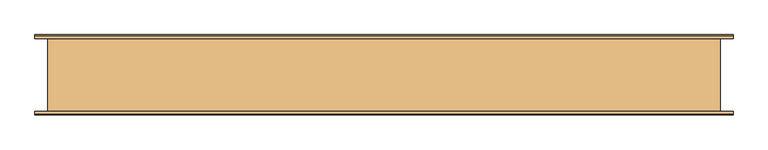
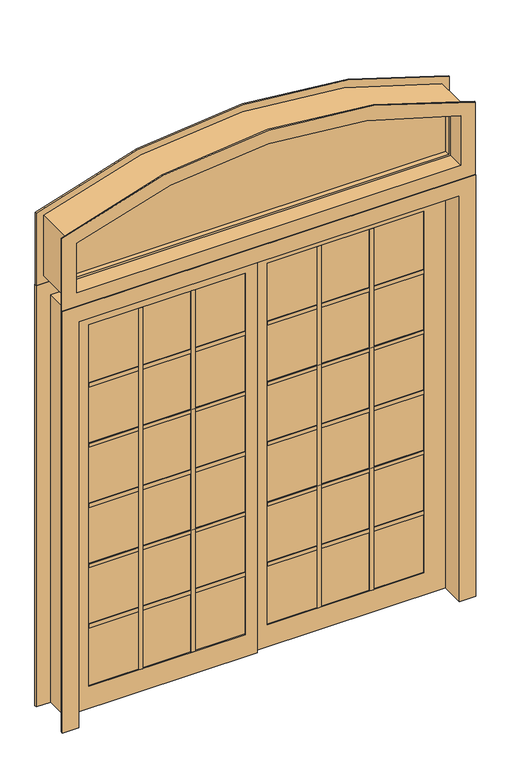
"""IFC4 building model written with IfcOpenShell, lengths in millimetres: door geometry, Pollard_Windows_Vistador Patio Doors_ATS_Extended Segmental : AVDR7180-ESW1806_GC."""

import ifcopenshell
import ifcopenshell.guid

model = None  # the IFC model being written
_history = None  # IfcOwnerHistory: only IFC2X3 demands one
_inside = {}  # id of a spatial element -> (the spatial element, [elements in it])
_under = {}  # id of a project, library or spatial element -> (it, [spatial elements below it])
_declared = {}  # id of a project -> (the project, [libraries it declares])
_typed = {}  # id of a type object -> (the type object, [elements of that type])
_made_of = {}  # id of a material, layer set ... -> (it, [elements and type objects made of it])


def new_model(schema):
    """Start an empty IFC model of exactly this schema.

    Asked for "IFC4X3", IfcOpenShell would pick the latest addendum, in which some entities
    have other attributes; the version numbers below select the first issue.
    IFC2X3 requires an IfcOwnerHistory on every rooted entity: one is made here for all.
    """
    global model, _history
    if schema == "IFC4X3":
        model = ifcopenshell.file(schema_version=(4, 3, 0, 0))
    else:
        model = ifcopenshell.file(schema=schema)
    _inside.clear()
    _under.clear()
    _declared.clear()
    _typed.clear()
    _made_of.clear()
    _history = None
    if model.schema == "IFC2X3":
        org = make("IfcOrganization", Name="unknown")
        user = make(
            "IfcPersonAndOrganization",
            ThePerson=make("IfcPerson", FamilyName="unknown"),
            TheOrganization=org,
        )
        app = make(
            "IfcApplication",
            ApplicationDeveloper=org,
            Version="unknown",
            ApplicationFullName="unknown",
            ApplicationIdentifier="unknown",
        )
        _history = make(
            "IfcOwnerHistory",
            OwningUser=user,
            OwningApplication=app,
            ChangeAction="ADDED",
            CreationDate=0,
        )
    return model


def make(cls, **values):
    """One entity of the class cls with the attributes given. An attribute that is None is left unset."""
    return model.create_entity(
        cls, **{name: value for name, value in values.items() if value is not None}
    )


def rooted(cls, **values):
    """An entity with a GlobalId (a new one), such as an element, a storey or a relation."""
    return make(cls, GlobalId=ifcopenshell.guid.new(), OwnerHistory=_history, **values)


def si_unit(unit_type, name, prefix=None):
    """IfcSIUnit, for example si_unit("LENGTHUNIT", "METRE", prefix="MILLI")."""
    return make("IfcSIUnit", UnitType=unit_type, Prefix=prefix, Name=name)


def assignment(units):
    """IfcUnitAssignment: the units of a project."""
    return None if units is None else make("IfcUnitAssignment", Units=units)


def point(xyz):
    """IfcCartesianPoint."""
    return None if xyz is None else make("IfcCartesianPoint", Coordinates=xyz)


def direction(xyz):
    """IfcDirection."""
    return None if xyz is None else make("IfcDirection", DirectionRatios=xyz)


def frame(location, z_axis=None, x_axis=None):
    """IfcAxis2Placement3D, a coordinate frame: its origin and axes. An axis left out is left unset."""
    return make(
        "IfcAxis2Placement3D",
        Location=point(location),
        Axis=direction(z_axis),
        RefDirection=direction(x_axis),
    )


def frame_2d(location, x_axis=None):
    """IfcAxis2Placement2D, a coordinate frame in the plane: its origin and x axis."""
    return make(
        "IfcAxis2Placement2D", Location=point(location), RefDirection=direction(x_axis)
    )


def origin():
    """The frame at (0, 0, 0) with its axes left unset."""
    return frame((0.0, 0.0, 0.0))


def place(relative_to, where):
    """IfcLocalPlacement: puts the frame where relative to a parent placement (None: the world)."""
    return make(
        "IfcLocalPlacement", PlacementRelTo=relative_to, RelativePlacement=where
    )


def context(
    kind, dimensions, precision=None, world=None, true_north=None, identifier=None
):
    """IfcGeometricRepresentationContext, for example the 3D "Model" context."""
    return make(
        "IfcGeometricRepresentationContext",
        ContextIdentifier=identifier,
        ContextType=kind,
        CoordinateSpaceDimension=dimensions,
        Precision=precision,
        WorldCoordinateSystem=world,
        TrueNorth=true_north,
    )


def project(units=None, contexts=None):
    """IfcProject with its units and contexts."""
    return rooted(
        "IfcProject",
        Name="project",
        RepresentationContexts=contexts,
        UnitsInContext=assignment(units),
    )


def spatial(cls, under=None, at=None, **own):
    """A site, building, storey or space (cls), placed at a placement, below another one or the project."""
    s = rooted(cls, ObjectPlacement=at, **own)
    if under is not None:
        _under.setdefault(under.id(), (under, []))[1].append(s)
    return s


def polyline(points):
    """IfcPolyline through the points."""
    return make("IfcPolyline", Points=[point(p) for p in points])


def circle_curve(where, radius):
    """IfcCircle in the frame where."""
    return make("IfcCircle", Position=where, Radius=radius)


def trimmed(basis, trim1, trim2, sense, master):
    """IfcTrimmedCurve: the piece of a basis curve between two trims."""
    return make(
        "IfcTrimmedCurve",
        BasisCurve=basis,
        Trim1=trim1,
        Trim2=trim2,
        SenseAgreement=sense,
        MasterRepresentation=master,
    )


def segment(curve, same_sense, transition):
    """IfcCompositeCurveSegment."""
    return make(
        "IfcCompositeCurveSegment",
        Transition=transition,
        SameSense=same_sense,
        ParentCurve=curve,
    )


def composite_curve(segments, self_intersect=None):
    """IfcCompositeCurve: segments joined end to end."""
    return make("IfcCompositeCurve", Segments=segments, SelfIntersect=self_intersect)


def outline(outer, holes=None, kind="AREA"):
    """IfcArbitraryClosedProfileDef: a profile drawn as a closed curve; with holes, ...WithVoids."""
    if holes is None:
        return make("IfcArbitraryClosedProfileDef", ProfileType=kind, OuterCurve=outer)
    return make(
        "IfcArbitraryProfileDefWithVoids",
        ProfileType=kind,
        OuterCurve=outer,
        InnerCurves=holes,
    )


def extrude(swept, where, along, depth):
    """IfcExtrudedAreaSolid: the profile swept, set in the frame where, extruded along a direction by depth."""
    return make(
        "IfcExtrudedAreaSolid",
        SweptArea=swept,
        Position=where,
        ExtrudedDirection=direction(along),
        Depth=depth,
    )


def faces_of(points, faces, orient=None, outer=None):
    """IfcFace entities. A face is a list of loops; a loop is a list of indices into points, from 0.

    orient and outer hold one flag for each loop. By default every Orientation is true, the
    first loop of a face is its IfcFaceOuterBound and the others are IfcFaceBound.
    """
    made = []
    for i, loops in enumerate(faces):
        bounds = []
        for j, loop in enumerate(loops):
            is_outer = j == 0 if outer is None else outer[i][j]
            bounds.append(
                make(
                    "IfcFaceOuterBound" if is_outer else "IfcFaceBound",
                    Bound=make("IfcPolyLoop", Polygon=[points[k] for k in loop]),
                    Orientation=True if orient is None else orient[i][j],
                )
            )
        made.append(make("IfcFace", Bounds=bounds))
    return made


def faceted_brep(points, faces, orient=None, outer=None, voids=None):
    """IfcFacetedBrep: a solid bounded by flat faces; with voids (closed shells), ...WithVoids."""
    shared = [point(p) for p in points]
    hull = make("IfcClosedShell", CfsFaces=faces_of(shared, faces, orient, outer))
    if voids is None:
        return make("IfcFacetedBrep", Outer=hull)
    return make(
        "IfcFacetedBrepWithVoids",
        Outer=hull,
        Voids=[
            make(cls, CfsFaces=faces_of(shared, fs, o, b)) for cls, fs, o, b in voids
        ],
    )


def shape(context_of_items, identifier, shape_type, items):
    """IfcShapeRepresentation: the items that make up one representation, for example the "Body"."""
    return make(
        "IfcShapeRepresentation",
        ContextOfItems=context_of_items,
        RepresentationIdentifier=identifier,
        RepresentationType=shape_type,
        Items=items,
    )


def source(mapping_origin, context_of_items, identifier, shape_type, items):
    """IfcRepresentationMap: a shape defined once, which mapped items show again and again."""
    return make(
        "IfcRepresentationMap",
        MappingOrigin=mapping_origin,
        MappedRepresentation=shape(context_of_items, identifier, shape_type, items),
    )


def transform(
    local_origin,
    x_axis=None,
    y_axis=None,
    z_axis=None,
    scale=None,
    scale2=None,
    scale3=None,
    uniform=True,
):
    """IfcCartesianTransformationOperator3D, or its non-uniform kind. x_axis, y_axis, z_axis: its Axis1, 2, 3."""
    if uniform:
        return make(
            "IfcCartesianTransformationOperator3D",
            Axis1=direction(x_axis),
            Axis2=direction(y_axis),
            LocalOrigin=point(local_origin),
            Scale=scale,
            Axis3=direction(z_axis),
        )
    return make(
        "IfcCartesianTransformationOperator3DnonUniform",
        Axis1=direction(x_axis),
        Axis2=direction(y_axis),
        LocalOrigin=point(local_origin),
        Scale=scale,
        Axis3=direction(z_axis),
        Scale2=scale2,
        Scale3=scale3,
    )


def mapped(mapping_source, mapping_target):
    """IfcMappedItem: shows the shape of a source again, moved by a transform."""
    return make(
        "IfcMappedItem", MappingSource=mapping_source, MappingTarget=mapping_target
    )


def made_of(thing, what):
    """Note that an element or type object is made of a material, layer set ...; save() writes the relation."""
    if what is not None:
        _made_of.setdefault(what.id(), (what, []))[1].append(thing)
    return thing


def element(
    cls,
    number,
    at=None,
    inside=None,
    cuts=None,
    type_object=None,
    material=None,
    context=None,
    identifier="Body",
    shape_type=None,
    held_by="IfcProductDefinitionShape",
    body=None,
    shapes=None,
    **own,
):
    """One element of the class cls, such as IfcWall. Its Tag is "e" and its number.

    at: its placement. inside: the storey or other place that contains it. cuts: it is an
    opening in that element (IfcRelVoidsElement). A single representation is given by context,
    identifier, shape_type and body (its items); several are given by shapes. held_by: the class
    of the entity that holds the representations. save() writes the other relations.
    """
    e = rooted(cls, Tag="e%d" % number, ObjectPlacement=at, **own)
    if body is not None:
        shapes = [shape(context, identifier, shape_type, body)]
    if shapes is not None:
        e.Representation = make(held_by, Representations=shapes)
    if inside is not None:
        _inside.setdefault(inside.id(), (inside, []))[1].append(e)
    if cuts is not None:
        rooted(
            "IfcRelVoidsElement", RelatingBuildingElement=cuts, RelatedOpeningElement=e
        )
    if type_object is not None:
        _typed.setdefault(type_object.id(), (type_object, []))[1].append(e)
    return made_of(e, material)


def aggregate(whole, parts):
    """IfcRelAggregates: a whole, such as a stair, and the parts it consists of."""
    return rooted("IfcRelAggregates", RelatingObject=whole, RelatedObjects=parts)


def save(model, path):
    """Write the relations noted so far, then the file.

    IfcRelAggregates (storeys below a building ...), IfcRelContainedInSpatialStructure (elements
    in a storey), IfcRelDefinesByType, IfcRelAssociatesMaterial and IfcRelDeclares: one each for
    every whole, place, type object, material and project.
    """
    for whole, parts in _under.values():
        aggregate(whole, parts)
    for where, things in _inside.values():
        rooted(
            "IfcRelContainedInSpatialStructure",
            RelatedElements=things,
            RelatingStructure=where,
        )
    for kind, things in _typed.values():
        rooted("IfcRelDefinesByType", RelatedObjects=things, RelatingType=kind)
    for what, things in _made_of.values():
        rooted("IfcRelAssociatesMaterial", RelatedObjects=things, RelatingMaterial=what)
    for by, libraries in _declared.values():
        rooted("IfcRelDeclares", RelatingContext=by, RelatedDefinitions=libraries)
    model.write(path)


def plane_surface(at):
    """IfcPlane: the flat surface through the origin of the frame at, square to its z axis."""
    return make("IfcPlane", Position=at)


def cylinder_surface(at, radius):
    """IfcCylindricalSurface: all points at the distance radius from the z axis of the frame at."""
    return make("IfcCylindricalSurface", Position=at, Radius=radius)


def revolved_surface(curve, axis_point, axis_direction):
    """IfcSurfaceOfRevolution: the curve turned about the line through axis_point along axis_direction."""
    return make(
        "IfcSurfaceOfRevolution",
        SweptCurve=make("IfcArbitraryOpenProfileDef", ProfileType="CURVE", Curve=curve),
        AxisPosition=make("IfcAxis1Placement", Location=point(axis_point), Axis=direction(axis_direction)),
    )


def advanced_brep(points, edges, surfaces, faces):
    """IfcAdvancedBrep: a solid bounded by faces that lie on surfaces and meet in shared edges.

    An edge is (start, end): straight between two places in points (the first is 0);
    or (start, end, curve); or (start, end, curve, False) where it runs against its curve.
    A face is (place in surfaces, loops), or (place, loops, False) where it looks against
    its surface's normal. A loop lists edges by number (the first is 1), with a minus sign
    where the edge is run from its end to its start. The first loop is the outer one.
    """
    corners = [point(p) for p in points]
    vertices = [make("IfcVertexPoint", VertexGeometry=c) for c in corners]
    made = []
    for start, end, *more in edges:
        made.append(
            make(
                "IfcEdgeCurve",
                EdgeStart=vertices[start],
                EdgeEnd=vertices[end],
                EdgeGeometry=more[0] if more else make("IfcPolyline", Points=[corners[start], corners[end]]),
                SameSense=more[1] if len(more) > 1 else True,
            )
        )
    hull = []
    for where, loops, *sense in faces:
        bounds = []
        for j, loop in enumerate(loops):
            ring = [make("IfcOrientedEdge", EdgeElement=made[abs(k) - 1], Orientation=k > 0) for k in loop]
            bounds.append(
                make(
                    "IfcFaceOuterBound" if j == 0 else "IfcFaceBound",
                    Bound=make("IfcEdgeLoop", EdgeList=ring),
                    Orientation=True,
                )
            )
        hull.append(make("IfcAdvancedFace", Bounds=bounds, FaceSurface=surfaces[where], SameSense=sense[0] if sense else True))
    return make("IfcAdvancedBrep", Outer=make("IfcClosedShell", CfsFaces=hull))


def door_c7962197(model_context):
    return source(origin(), model_context, "Body", "SolidModel", [
        extrude(outline(composite_curve([segment(trimmed(circle_curve(frame_2d((192.3310275, 0.0)), 2404.8403652), [point((2414.0558519, 920.4325))], [point((2414.0558519, -920.4325))], False, "CARTESIAN"), True, "CONTINUOUS"), segment(polyline([(2414.0558519, -920.4325), (2135.378, -920.4325), (2135.378, 920.4325), (2414.0558519, 920.4325)]), True, "CONTINUOUS")], self_intersect=False)), frame((0.0, -2.6145378, 0.0), z_axis=(0.0, 1.0, 0.0), x_axis=(0.0, 0.0, 1.0)), (0.0, 0.0, 1.0), 5.2290756),
        advanced_brep(
        [(920.4325, -25.4, 2135.378), (920.4325, 25.4, 2135.378), (920.4325, 25.4, 2414.0558519), (920.4325, -25.4, 2414.0558519), (890.4543258, -2.6145378, 2165.3561742), (890.4543258, -25.4, 2165.3561742), (890.4543258, -25.4, 2393.9353334), (890.4543258, -2.6145378, 2393.9353334), (900.1125, 2.6145378, 2155.698), (900.1125, -2.6145378, 2155.698), (900.1125, -2.6145378, 2400.4376507), (900.1125, 2.6145378, 2400.4376507), (890.4543258, 25.4, 2165.3561742), (890.4543258, 2.6145378, 2165.3561742), (890.4543258, 2.6145378, 2393.9353334), (890.4543258, 25.4, 2393.9353334), (-920.4325, -25.4, 2414.0558519), (-920.4325, 25.4, 2414.0558519), (-920.4325, -25.4, 2135.378), (-890.4543258, -25.4, 2393.9353334), (-890.4543258, -25.4, 2165.3561742), (-890.4543258, -2.6145378, 2393.9353334), (-900.1125, -2.6145378, 2400.4376507), (-900.1125, -2.6145378, 2155.698), (-890.4543258, -2.6145378, 2165.3561742), (-900.1125, 2.6145378, 2400.4376507), (-900.1125, 2.6145378, 2155.698), (-890.4543258, 2.6145378, 2393.9353334), (-890.4543258, 2.6145378, 2165.3561742), (-890.4543258, 25.4, 2393.9353334), (-920.4325, 25.4, 2135.378), (-890.4543258, 25.4, 2165.3561742)],
        [
            (0, 1),
            (1, 2),
            (2, 3),
            (3, 0),
            (4, 5),
            (5, 6),
            (6, 7),
            (7, 4),
            (8, 9),
            (9, 10),
            (10, 11),
            (11, 8),
            (12, 13),
            (13, 14),
            (14, 15),
            (15, 12),
            (16, 3, circle_curve(frame((0.0, -25.4, 192.3310275), z_axis=(0.0, 1.0, 0.0), x_axis=(0.38598424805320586, 0.0, 0.9225053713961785)), 2404.8403652)),
            (2, 17, circle_curve(frame((0.0, 25.4, 192.3310275), z_axis=(0.0, -1.0, 0.0), x_axis=(0.38598424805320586, 0.0, 0.9225053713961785)), 2404.8403652)),
            (17, 16),
            (16, 18),
            (18, 0),
            (19, 6, circle_curve(frame((0.0, -25.4, 192.3310275), z_axis=(0.0, 1.0, 0.0), x_axis=(0.38598424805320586, 0.0, 0.9225053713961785)), 2374.862191)),
            (5, 20),
            (20, 19),
            (21, 7, circle_curve(frame((0.0, -2.6145378, 192.3310275), z_axis=(0.0, 1.0, 0.0), x_axis=(0.38598424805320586, 0.0, 0.9225053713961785)), 2374.862191)),
            (19, 21),
            (22, 10, circle_curve(frame((0.0, -2.6145378, 192.3310275), z_axis=(0.0, 1.0, 0.0), x_axis=(0.38598424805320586, 0.0, 0.9225053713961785)), 2384.5203652)),
            (9, 23),
            (23, 22),
            (21, 24),
            (24, 4),
            (25, 11, circle_curve(frame((0.0, 2.6145378, 192.3310275), z_axis=(0.0, 1.0, 0.0), x_axis=(0.38598424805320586, 0.0, 0.9225053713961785)), 2384.5203652)),
            (22, 25),
            (25, 26),
            (26, 8),
            (27, 14, circle_curve(frame((0.0, 2.6145378, 192.3310275), z_axis=(0.0, 1.0, 0.0), x_axis=(0.38598424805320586, 0.0, 0.9225053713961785)), 2374.862191)),
            (13, 28),
            (28, 27),
            (29, 15, circle_curve(frame((0.0, 25.4, 192.3310275), z_axis=(0.0, 1.0, 0.0), x_axis=(0.38598424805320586, 0.0, 0.9225053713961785)), 2374.862191)),
            (27, 29),
            (1, 30),
            (30, 17),
            (29, 31),
            (31, 12),
            (30, 18),
            (20, 24),
            (23, 26),
            (28, 31),
        ],
        [
            plane_surface(frame((920.4325, 25.4, 2135.378), z_axis=(1.0, 0.0, 0.0), x_axis=(0.0, 0.0, 1.0))),
            plane_surface(frame((890.4543258, -25.4, 2165.3561742), z_axis=(-1.0, 0.0, 0.0), x_axis=(0.0, 0.0, 1.0))),
            plane_surface(frame((900.1125, -2.6145378, 2155.698), z_axis=(-1.0, 0.0, 0.0), x_axis=(0.0, 0.0, 1.0))),
            plane_surface(frame((890.4543258, 2.6145378, 2165.3561742), z_axis=(-1.0, 0.0, 0.0), x_axis=(0.0, 0.0, 1.0))),
            cylinder_surface(frame((0.0, 0.0, 192.3310275), z_axis=(0.0, -1.0, 0.0), x_axis=(0.38598424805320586, 0.0, 0.9225053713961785)), 2404.8403652),
            plane_surface(frame((0.0, -25.4, 192.3310275), z_axis=(0.0, -1.0, 0.0), x_axis=(0.38598424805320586, 0.0, 0.9225053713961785))),
            revolved_surface(polyline([(916.659397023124, -25.4, 2383.1541550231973), (916.659397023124, -2.6145378, 2383.1541550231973)]), (0.0, 0.0, 192.3310275), (0.0, -1.0, 0.0)),
            plane_surface(frame((0.0, -2.6145378, 192.3310275), z_axis=(0.0, 1.0, 0.0), x_axis=(0.38598424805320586, 0.0, 0.9225053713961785))),
            revolved_surface(polyline([(920.3873001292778, -2.6145378, 2392.0638726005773), (920.3873001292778, 2.6145378, 2392.0638726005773)]), (0.0, 0.0, 192.3310275), (0.0, -1.0, 0.0)),
            plane_surface(frame((0.0, 2.6145378, 192.3310275), z_axis=(0.0, -1.0, 0.0), x_axis=(0.38598424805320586, 0.0, 0.9225053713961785))),
            revolved_surface(polyline([(916.659397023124, 2.6145378, 2383.1541550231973), (916.659397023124, 25.4, 2383.1541550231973)]), (0.0, 0.0, 192.3310275), (0.0, -1.0, 0.0)),
            plane_surface(frame((0.0, 25.4, 192.3310275), z_axis=(0.0, 1.0, 0.0), x_axis=(0.38598424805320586, 0.0, 0.9225053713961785))),
            plane_surface(frame((-920.4325, 25.4, 2414.0558519), z_axis=(-1.0, 0.0, 0.0), x_axis=(0.0, 0.0, -1.0))),
            plane_surface(frame((-890.4543258, -25.4, 2393.9353334), z_axis=(1.0, 0.0, 0.0), x_axis=(0.0, 0.0, -1.0))),
            plane_surface(frame((-900.1125, -2.6145378, 2400.4376507), z_axis=(1.0, 0.0, 0.0), x_axis=(0.0, 0.0, -1.0))),
            plane_surface(frame((-890.4543258, 2.6145378, 2393.9353334), z_axis=(1.0, 0.0, 0.0), x_axis=(0.0, 0.0, -1.0))),
            plane_surface(frame((-920.4325, 25.4, 2135.378), z_axis=(0.0, 0.0, -1.0), x_axis=(1.0, 0.0, 0.0))),
            plane_surface(frame((-890.4543258, -25.4, 2165.3561742), z_axis=(0.0, 0.0, 1.0), x_axis=(1.0, 0.0, 0.0))),
            plane_surface(frame((-900.1125, -2.6145378, 2155.698), z_axis=(0.0, 0.0, 1.0), x_axis=(1.0, 0.0, 0.0))),
            plane_surface(frame((-890.4543258, 2.6145378, 2165.3561742), z_axis=(0.0, 0.0, 1.0), x_axis=(1.0, 0.0, 0.0))),
        ],
        [
            (0, [[1, 2, 3, 4]]),
            (1, [[5, 6, 7, 8]]),
            (2, [[9, 10, 11, 12]]),
            (3, [[13, 14, 15, 16]]),
            (4, [[17, -3, 18, 19]]),
            (5, [[-17, 20, 21, -4], [22, -6, 23, 24]]),
            (6, [[25, -7, -22, 26]]),
            (7, [[27, -10, 28, 29], [-25, 30, 31, -8]]),
            (8, [[32, -11, -27, 33]]),
            (9, [[-32, 34, 35, -12], [36, -14, 37, 38]]),
            (10, [[39, -15, -36, 40]]),
            (11, [[-18, -2, 41, 42], [-39, 43, 44, -16]]),
            (12, [[-19, -42, 45, -20]]),
            (13, [[-26, -24, 46, -30]]),
            (14, [[-33, -29, 47, -34]]),
            (15, [[-40, -38, 48, -43]]),
            (16, [[-45, -41, -1, -21]]),
            (17, [[-46, -23, -5, -31]]),
            (18, [[-47, -28, -9, -35]]),
            (19, [[-48, -37, -13, -44]]),
        ],
    ),
        advanced_brep(
        [(-968.3115, -107.95, 2445.8183524), (-968.3115, -101.6, 2445.8183524), (-968.3115, -101.6, 2087.499), (-968.3115, -107.95, 2087.499), (-900.1125, -25.4, 2400.4376507), (-900.1125, -101.6, 2400.4376507), (-900.1125, -107.95, 2400.4376507), (-900.1125, -107.95, 2155.698), (-900.1125, -25.4, 2155.698), (-920.4325, 25.4, 2414.0558519), (-920.4325, -25.4, 2414.0558519), (-920.4325, -25.4, 2135.378), (-920.4325, 25.4, 2135.378), (-900.1125, 107.95, 2400.4376507), (-900.1125, 25.4, 2400.4376507), (-900.1125, 25.4, 2155.698), (-900.1125, 107.95, 2155.698), (-968.3115, 101.6, 2445.8183524), (-968.3115, 107.95, 2445.8183524), (-968.3115, 107.95, 2087.499), (-968.3115, 101.6, 2087.499), (-933.1325, -101.6, 2422.525), (-933.1325, 101.6, 2422.525), (-933.1325, 101.6, 2122.678), (-933.1325, -101.6, 2122.678), (968.3115, -101.6, 2087.499), (968.3115, -107.95, 2087.499), (900.1125, -107.95, 2155.698), (900.1125, -25.4, 2155.698), (920.4325, -25.4, 2135.378), (920.4325, 25.4, 2135.378), (900.1125, 25.4, 2155.698), (900.1125, 107.95, 2155.698), (968.3115, 107.95, 2087.499), (968.3115, 101.6, 2087.499), (933.1325, 101.6, 2122.678), (933.1325, -101.6, 2122.678), (968.3115, -101.6, 2445.8183524), (968.3115, -107.95, 2445.8183524), (900.1125, -107.95, 2400.4376507), (900.1125, -101.6, 2400.4376507), (900.1125, -25.4, 2400.4376507), (920.4325, -25.4, 2414.0558519), (920.4325, 25.4, 2414.0558519), (900.1125, 25.4, 2400.4376507), (900.1125, 107.95, 2400.4376507), (968.3115, 107.95, 2445.8183524), (968.3115, 101.6, 2445.8183524), (933.1325, 101.6, 2422.525), (933.1325, -101.6, 2422.525)],
        [
            (0, 1),
            (1, 2),
            (2, 3),
            (3, 0),
            (4, 5),
            (5, 6),
            (6, 7),
            (7, 8),
            (8, 4),
            (9, 10),
            (10, 11),
            (11, 12),
            (12, 9),
            (13, 14),
            (14, 15),
            (15, 16),
            (16, 13),
            (17, 18),
            (18, 19),
            (19, 20),
            (20, 17),
            (21, 22),
            (22, 23),
            (23, 24),
            (24, 21),
            (2, 25),
            (25, 26),
            (26, 3),
            (7, 27),
            (27, 28),
            (28, 8),
            (11, 29),
            (29, 30),
            (30, 12),
            (15, 31),
            (31, 32),
            (32, 16),
            (19, 33),
            (33, 34),
            (34, 20),
            (23, 35),
            (35, 36),
            (36, 24),
            (25, 37),
            (37, 38),
            (38, 26),
            (27, 39),
            (39, 40),
            (40, 41),
            (41, 28),
            (29, 42),
            (42, 43),
            (43, 30),
            (31, 44),
            (44, 45),
            (45, 32),
            (33, 46),
            (46, 47),
            (47, 34),
            (35, 48),
            (48, 49),
            (49, 36),
            (1, 37, circle_curve(frame((0.0, -101.6, 192.3310275), z_axis=(0.0, 1.0, 0.0), x_axis=(0.3859842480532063, 0.0, 0.9225053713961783)), 2452.7193652)),
            (49, 21, circle_curve(frame((0.0, -101.6, 192.3310275), z_axis=(0.0, -1.0, 0.0), x_axis=(0.3859842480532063, 0.0, 0.9225053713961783)), 2417.5403652)),
            (0, 38, circle_curve(frame((0.0, -107.95, 192.3310275), z_axis=(0.0, 1.0, 0.0), x_axis=(0.3859842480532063, 0.0, 0.9225053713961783)), 2452.7193652)),
            (6, 39, circle_curve(frame((0.0, -107.95, 192.3310275), z_axis=(0.0, 1.0, 0.0), x_axis=(0.3859842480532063, 0.0, 0.9225053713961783)), 2384.5203652)),
            (5, 40, circle_curve(frame((0.0, -101.6, 192.3310275), z_axis=(0.0, 1.0, 0.0), x_axis=(0.3859842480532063, 0.0, 0.9225053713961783)), 2384.5203652)),
            (4, 41, circle_curve(frame((0.0, -25.4, 192.3310275), z_axis=(0.0, 1.0, 0.0), x_axis=(0.3859842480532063, 0.0, 0.9225053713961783)), 2384.5203652)),
            (10, 42, circle_curve(frame((0.0, -25.4, 192.3310275), z_axis=(0.0, 1.0, 0.0), x_axis=(0.3859842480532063, 0.0, 0.9225053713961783)), 2404.8403652)),
            (9, 43, circle_curve(frame((0.0, 25.4, 192.3310275), z_axis=(0.0, 1.0, 0.0), x_axis=(0.3859842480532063, 0.0, 0.9225053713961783)), 2404.8403652)),
            (14, 44, circle_curve(frame((0.0, 25.4, 192.3310275), z_axis=(0.0, 1.0, 0.0), x_axis=(0.3859842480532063, 0.0, 0.9225053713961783)), 2384.5203652)),
            (13, 45, circle_curve(frame((0.0, 107.95, 192.3310275), z_axis=(0.0, 1.0, 0.0), x_axis=(0.3859842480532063, 0.0, 0.9225053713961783)), 2384.5203652)),
            (18, 46, circle_curve(frame((0.0, 107.95, 192.3310275), z_axis=(0.0, 1.0, 0.0), x_axis=(0.3859842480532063, 0.0, 0.9225053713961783)), 2452.7193652)),
            (17, 47, circle_curve(frame((0.0, 101.6, 192.3310275), z_axis=(0.0, 1.0, 0.0), x_axis=(0.3859842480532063, 0.0, 0.9225053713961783)), 2452.7193652)),
            (22, 48, circle_curve(frame((0.0, 101.6, 192.3310275), z_axis=(0.0, 1.0, 0.0), x_axis=(0.3859842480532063, 0.0, 0.9225053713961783)), 2417.5403652)),
        ],
        [
            plane_surface(frame((-968.3115, -101.6, 2445.8183524), z_axis=(-1.0, 0.0, 0.0), x_axis=(0.0, 0.0, -1.0))),
            plane_surface(frame((-900.1125, -101.6, 2400.4376507), z_axis=(1.0, 0.0, 0.0), x_axis=(0.0, 0.0, -1.0))),
            plane_surface(frame((-920.4325, -25.4, 2414.0558519), z_axis=(1.0, 0.0, 0.0), x_axis=(0.0, 0.0, -1.0))),
            plane_surface(frame((-900.1125, 25.4, 2400.4376507), z_axis=(1.0, 0.0, 0.0), x_axis=(0.0, 0.0, -1.0))),
            plane_surface(frame((-968.3115, 107.95, 2445.8183524), z_axis=(-1.0, 0.0, 0.0), x_axis=(0.0, 0.0, -1.0))),
            plane_surface(frame((-933.1325, 101.6, 2422.525), z_axis=(-1.0, 0.0, 0.0), x_axis=(0.0, 0.0, -1.0))),
            plane_surface(frame((-968.3115, -101.6, 2087.499), z_axis=(0.0, 0.0, -1.0), x_axis=(1.0, 0.0, 0.0))),
            plane_surface(frame((-900.1125, -101.6, 2155.698), z_axis=(0.0, 0.0, 1.0), x_axis=(1.0, 0.0, 0.0))),
            plane_surface(frame((-920.4325, -25.4, 2135.378), z_axis=(0.0, 0.0, 1.0), x_axis=(1.0, 0.0, 0.0))),
            plane_surface(frame((-900.1125, 25.4, 2155.698), z_axis=(0.0, 0.0, 1.0), x_axis=(1.0, 0.0, 0.0))),
            plane_surface(frame((-968.3115, 107.95, 2087.499), z_axis=(0.0, 0.0, -1.0), x_axis=(1.0, 0.0, 0.0))),
            plane_surface(frame((-933.1325, 101.6, 2122.678), z_axis=(0.0, 0.0, -1.0), x_axis=(1.0, 0.0, 0.0))),
            plane_surface(frame((968.3115, -101.6, 2087.499), z_axis=(1.0, 0.0, 0.0), x_axis=(0.0, 0.0, 1.0))),
            plane_surface(frame((900.1125, -101.6, 2155.698), z_axis=(-1.0, 0.0, 0.0), x_axis=(0.0, 0.0, 1.0))),
            plane_surface(frame((920.4325, -25.4, 2135.378), z_axis=(-1.0, 0.0, 0.0), x_axis=(0.0, 0.0, 1.0))),
            plane_surface(frame((900.1125, 25.4, 2155.698), z_axis=(-1.0, 0.0, 0.0), x_axis=(0.0, 0.0, 1.0))),
            plane_surface(frame((968.3115, 107.95, 2087.499), z_axis=(1.0, 0.0, 0.0), x_axis=(0.0, 0.0, 1.0))),
            plane_surface(frame((933.1325, 101.6, 2122.678), z_axis=(1.0, 0.0, 0.0), x_axis=(0.0, 0.0, 1.0))),
            plane_surface(frame((0.0, -101.6, 192.3310275), z_axis=(0.0, 1.0, 0.0), x_axis=(0.3859842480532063, 0.0, 0.9225053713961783))),
            cylinder_surface(frame((0.0, 101.6, 192.3310275), z_axis=(0.0, -1.0, 0.0), x_axis=(0.3859842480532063, 0.0, 0.9225053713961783)), 2452.7193652),
            plane_surface(frame((0.0, -107.95, 192.3310275), z_axis=(0.0, -1.0, 0.0), x_axis=(0.3859842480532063, 0.0, 0.9225053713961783))),
            revolved_surface(polyline([(920.3873001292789, -107.95000000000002, 2392.0638726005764), (920.3873001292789, -101.6, 2392.0638726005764)]), (0.0, 101.6, 192.3310275), (0.0, -1.0, 0.0)),
            revolved_surface(polyline([(920.3873001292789, -101.6, 2392.0638726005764), (920.3873001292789, -25.400000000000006, 2392.0638726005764)]), (0.0, 101.6, 192.3310275), (0.0, -1.0, 0.0)),
            plane_surface(frame((0.0, -25.4, 192.3310275), z_axis=(0.0, 1.0, 0.0), x_axis=(0.3859842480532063, 0.0, 0.9225053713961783))),
            revolved_surface(polyline([(928.2305000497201, -25.400000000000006, 2410.809181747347), (928.2305000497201, 25.400000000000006, 2410.809181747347)]), (0.0, 101.6, 192.3310275), (0.0, -1.0, 0.0)),
            plane_surface(frame((0.0, 25.4, 192.3310275), z_axis=(0.0, -1.0, 0.0), x_axis=(0.3859842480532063, 0.0, 0.9225053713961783))),
            revolved_surface(polyline([(920.3873001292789, 25.400000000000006, 2392.0638726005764), (920.3873001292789, 107.95, 2392.0638726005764)]), (0.0, 101.6, 192.3310275), (0.0, -1.0, 0.0)),
            plane_surface(frame((0.0, 107.95, 192.3310275), z_axis=(0.0, 1.0, 0.0), x_axis=(0.3859842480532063, 0.0, 0.9225053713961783))),
            plane_surface(frame((0.0, 101.6, 192.3310275), z_axis=(0.0, -1.0, 0.0), x_axis=(0.3859842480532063, 0.0, 0.9225053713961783))),
            cylinder_surface(frame((0.0, 101.6, 192.3310275), z_axis=(0.0, -1.0, 0.0), x_axis=(0.3859842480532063, 0.0, 0.9225053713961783)), 2417.5403652),
        ],
        [
            (0, [[1, 2, 3, 4]]),
            (1, [[5, 6, 7, 8, 9]]),
            (2, [[10, 11, 12, 13]]),
            (3, [[14, 15, 16, 17]]),
            (4, [[18, 19, 20, 21]]),
            (5, [[22, 23, 24, 25]]),
            (6, [[-3, 26, 27, 28]]),
            (7, [[-8, 29, 30, 31]]),
            (8, [[-12, 32, 33, 34]]),
            (9, [[-16, 35, 36, 37]]),
            (10, [[-20, 38, 39, 40]]),
            (11, [[-24, 41, 42, 43]]),
            (12, [[-27, 44, 45, 46]]),
            (13, [[-30, 47, 48, 49, 50]]),
            (14, [[-33, 51, 52, 53]]),
            (15, [[-36, 54, 55, 56]]),
            (16, [[-39, 57, 58, 59]]),
            (17, [[-42, 60, 61, 62]]),
            (18, [[63, -44, -26, -2], [-43, -62, 64, -25]]),
            (19, [[65, -45, -63, -1]]),
            (20, [[-28, -46, -65, -4], [66, -47, -29, -7]]),
            (21, [[67, -48, -66, -6]]),
            (22, [[68, -49, -67, -5]]),
            (23, [[69, -51, -32, -11], [-31, -50, -68, -9]]),
            (24, [[70, -52, -69, -10]]),
            (25, [[-34, -53, -70, -13], [71, -54, -35, -15]]),
            (26, [[72, -55, -71, -14]]),
            (27, [[73, -57, -38, -19], [-37, -56, -72, -17]]),
            (19, [[74, -58, -73, -18]]),
            (28, [[-40, -59, -74, -21], [75, -60, -41, -23]]),
            (29, [[-64, -61, -75, -22]]),
        ],
    ),
        extrude(outline(polyline([(-54.991, -10.0399998), (-790.1305, -10.0399998), (-790.1305, -4.9599998), (-54.991, -4.9599998), (-54.991, -10.0399998)])), frame((0.0, 0.0, 109.982), z_axis=(0.0, 0.0, 1.0), x_axis=(1.0, 0.0, 0.0)), (0.0, 0.0, 1.0), 1790.586),
        extrude(outline(polyline([(554.084, 14.9999996), (554.084, 9.9999998), (549.084, 9.9999998), (549.084, 4.9999998), (554.084, 4.9999998), (554.084, 0.0), (536.084, 0.0), (536.084, 4.9999998), (541.084, 4.9999998), (541.084, 9.9999998), (536.084, 9.9999998), (536.084, 14.9999996), (554.084, 14.9999996)])), frame((0.0, 0.0, 109.982), z_axis=(0.0, 0.0, 1.0), x_axis=(1.0, 0.0, 0.0)), (0.0, 0.0, 1.0), 1790.586),
        extrude(outline(polyline([(309.0375, 14.9999996), (309.0375, 9.9999998), (304.0375, 9.9999998), (304.0375, 4.9999998), (309.0375, 4.9999998), (309.0375, 0.0), (291.0375, 0.0), (291.0375, 4.9999998), (296.0375, 4.9999998), (296.0375, 9.9999998), (291.0375, 9.9999998), (291.0375, 14.9999996), (309.0375, 14.9999996)])), frame((0.0, 0.0, 109.982), z_axis=(0.0, 0.0, 1.0), x_axis=(1.0, 0.0, 0.0)), (0.0, 0.0, 1.0), 1790.586),
        extrude(outline(polyline([(-291.0375, 0.0), (-291.0375, -4.9999998), (-296.0375, -4.9999998), (-296.0375, -9.9999998), (-291.0375, -9.9999998), (-291.0375, -14.9999996), (-309.0375, -14.9999996), (-309.0375, -9.9999998), (-304.0375, -9.9999998), (-304.0375, -4.9999998), (-309.0375, -4.9999998), (-309.0375, 0.0), (-291.0375, 0.0)])), frame((0.0, 0.0, 109.982), z_axis=(0.0, 0.0, 1.0), x_axis=(1.0, 0.0, 0.0)), (0.0, 0.0, 1.0), 1790.586),
        extrude(outline(polyline([(-536.084, 0.0), (-536.084, -4.9999998), (-541.084, -4.9999998), (-541.084, -9.9999998), (-536.084, -9.9999998), (-536.084, -14.9999996), (-554.084, -14.9999996), (-554.084, -9.9999998), (-549.084, -9.9999998), (-549.084, -4.9999998), (-554.084, -4.9999998), (-554.084, 0.0), (-536.084, 0.0)])), frame((0.0, 0.0, 109.982), z_axis=(0.0, 0.0, 1.0), x_axis=(1.0, 0.0, 0.0)), (0.0, 0.0, 1.0), 1790.586),
        extrude(outline(polyline([(54.991, 10.0399998), (790.1305, 10.0399998), (790.1305, 4.9599998), (54.991, 4.9599998), (54.991, 10.0399998)])), frame((0.0, 0.0, 109.982), z_axis=(0.0, 0.0, 1.0), x_axis=(1.0, 0.0, 0.0)), (0.0, 0.0, 1.0), 1790.586),
        extrude(outline(polyline([(2010.55, 891.3625), (2010.55, 0.0), (0.0, 0.0), (0.0, 891.3625), (2010.55, 891.3625)]), holes=[polyline([(109.982, 790.1305), (109.982, 54.991), (1900.568, 54.991), (1900.568, 790.1305), (109.982, 790.1305)])]), frame((0.0, 0.0, 0.0), z_axis=(0.0, 1.0, 0.0), x_axis=(0.0, 0.0, 1.0)), (0.0, 0.0, 1.0), 14.9999996),
        extrude(outline(polyline([(2010.55, -891.3625), (0.0, -891.3625), (0.0, 0.0), (2010.55, 0.0), (2010.55, -891.3625)]), holes=[polyline([(1900.568, -790.1305), (1900.568, -54.991), (109.982, -54.991), (109.982, -790.1305), (1900.568, -790.1305)])]), frame((0.0, -14.9999996, 0.0), z_axis=(0.0, 1.0, 0.0), x_axis=(0.0, 0.0, 1.0)), (0.0, 0.0, 1.0), 14.9999996),
        faceted_brep([(968.3115, 111.6, 0.0), (968.3115, 101.6, 0.0), (900.1125, 101.6, 0.0), (900.1125, -101.6, 0.0), (968.3115, -101.6, 0.0), (968.3115, -111.6, 0.0), (891.3625, -111.6, 0.0), (891.3625, 111.6, 0.0), (968.3115, 111.6, 2087.499), (968.3115, 101.6, 2087.499), (-968.3115, 101.6, 2087.499), (-968.3115, 101.6, 0.0), (-900.1125, 101.6, 0.0), (-900.1125, 101.6, 2019.3), (900.1125, 101.6, 2019.3), (900.1125, -101.6, 2019.3), (-900.1125, -101.6, 2019.3), (-900.1125, -101.6, 0.0), (-968.3115, -101.6, 0.0), (-968.3115, -101.6, 2087.499), (968.3115, -101.6, 2087.499), (968.3115, -111.6, 2087.499), (-968.3115, -111.6, 2087.499), (-968.3115, -111.6, 0.0), (-891.3625, -111.6, 0.0), (-891.3625, -111.6, 2010.55), (891.3625, -111.6, 2010.55), (891.3625, 111.6, 2010.55), (-891.3625, 111.6, 2010.55), (-891.3625, 111.6, 0.0), (-968.3115, 111.6, 0.0), (-968.3115, 111.6, 2087.499)], [[[0, 1, 2, 3, 4, 5, 6, 7]], [[1, 0, 8, 9]], [[2, 1, 9, 10, 11, 12, 13, 14]], [[2, 14, 15, 3]], [[4, 3, 15, 16, 17, 18, 19, 20]], [[5, 4, 20, 21]], [[6, 5, 21, 22, 23, 24, 25, 26]], [[6, 26, 27, 7]], [[0, 7, 27, 28, 29, 30, 31, 8]], [[30, 29, 24, 23, 18, 17, 12, 11]], [[28, 25, 24, 29]], [[22, 19, 18, 23]], [[16, 13, 12, 17]], [[10, 31, 30, 11]], [[9, 8, 31, 10]], [[27, 26, 25, 28]], [[15, 14, 13, 16]], [[21, 20, 19, 22]]]),
        extrude(outline(polyline([(14.9999996, 1014.275), (14.9999996, 996.275), (9.9999998, 996.275), (9.9999998, 1001.275), (4.9999998, 1001.275), (4.9999998, 996.275), (0.0, 996.275), (0.0, 1014.275), (4.9999998, 1014.275), (4.9999998, 1009.275), (9.9999998, 1009.275), (9.9999998, 1014.275), (14.9999996, 1014.275)])), frame((54.991, 0.0, 0.0), z_axis=(1.0, 0.0, 0.0), x_axis=(0.0, 1.0, 0.0)), (0.0, 0.0, 1.0), 735.1395),
        extrude(outline(polyline([(14.9999996, 1611.137), (14.9999996, 1593.137), (9.9999998, 1593.137), (9.9999998, 1598.137), (4.9999998, 1598.137), (4.9999998, 1593.137), (0.0, 1593.137), (0.0, 1611.137), (4.9999998, 1611.137), (4.9999998, 1606.137), (9.9999998, 1606.137), (9.9999998, 1611.137), (14.9999996, 1611.137)])), frame((54.991, 0.0, 0.0), z_axis=(1.0, 0.0, 0.0), x_axis=(0.0, 1.0, 0.0)), (0.0, 0.0, 1.0), 735.1395),
        extrude(outline(polyline([(-14.9999996, 1593.137), (-14.9999996, 1611.137), (-9.9999998, 1611.137), (-9.9999998, 1606.137), (-4.9999998, 1606.137), (-4.9999998, 1611.137), (0.0, 1611.137), (0.0, 1593.137), (-4.9999998, 1593.137), (-4.9999998, 1598.137), (-9.9999998, 1598.137), (-9.9999998, 1593.137), (-14.9999996, 1593.137)])), frame((-790.1305, 0.0, 0.0), z_axis=(1.0, 0.0, 0.0), x_axis=(0.0, 1.0, 0.0)), (0.0, 0.0, 1.0), 735.1395),
        extrude(outline(polyline([(14.9999996, 1312.706), (14.9999996, 1294.706), (9.9999998, 1294.706), (9.9999998, 1299.706), (4.9999998, 1299.706), (4.9999998, 1294.706), (0.0, 1294.706), (0.0, 1312.706), (4.9999998, 1312.706), (4.9999998, 1307.706), (9.9999998, 1307.706), (9.9999998, 1312.706), (14.9999996, 1312.706)])), frame((54.991, 0.0, 0.0), z_axis=(1.0, 0.0, 0.0), x_axis=(0.0, 1.0, 0.0)), (0.0, 0.0, 1.0), 735.1395),
        extrude(outline(polyline([(-14.9999996, 1294.706), (-14.9999996, 1312.706), (-9.9999998, 1312.706), (-9.9999998, 1307.706), (-4.9999998, 1307.706), (-4.9999998, 1312.706), (0.0, 1312.706), (0.0, 1294.706), (-4.9999998, 1294.706), (-4.9999998, 1299.706), (-9.9999998, 1299.706), (-9.9999998, 1294.706), (-14.9999996, 1294.706)])), frame((-790.1305, 0.0, 0.0), z_axis=(1.0, 0.0, 0.0), x_axis=(0.0, 1.0, 0.0)), (0.0, 0.0, 1.0), 735.1395),
        extrude(outline(polyline([(14.9999996, 715.844), (14.9999996, 697.844), (9.9999998, 697.844), (9.9999998, 702.844), (4.9999998, 702.844), (4.9999998, 697.844), (0.0, 697.844), (0.0, 715.844), (4.9999998, 715.844), (4.9999998, 710.844), (9.9999998, 710.844), (9.9999998, 715.844), (14.9999996, 715.844)])), frame((54.991, 0.0, 0.0), z_axis=(1.0, 0.0, 0.0), x_axis=(0.0, 1.0, 0.0)), (0.0, 0.0, 1.0), 735.1395),
        extrude(outline(polyline([(-14.9999996, 697.844), (-14.9999996, 715.844), (-9.9999998, 715.844), (-9.9999998, 710.844), (-4.9999998, 710.844), (-4.9999998, 715.844), (0.0, 715.844), (0.0, 697.844), (-4.9999998, 697.844), (-4.9999998, 702.844), (-9.9999998, 702.844), (-9.9999998, 697.844), (-14.9999996, 697.844)])), frame((-790.1305, 0.0, 0.0), z_axis=(1.0, 0.0, 0.0), x_axis=(0.0, 1.0, 0.0)), (0.0, 0.0, 1.0), 735.1395),
        extrude(outline(polyline([(14.9999996, 417.413), (14.9999996, 399.413), (9.9999998, 399.413), (9.9999998, 404.413), (4.9999998, 404.413), (4.9999998, 399.413), (0.0, 399.413), (0.0, 417.413), (4.9999998, 417.413), (4.9999998, 412.413), (9.9999998, 412.413), (9.9999998, 417.413), (14.9999996, 417.413)])), frame((54.991, 0.0, 0.0), z_axis=(1.0, 0.0, 0.0), x_axis=(0.0, 1.0, 0.0)), (0.0, 0.0, 1.0), 735.1395),
        extrude(outline(polyline([(-14.9999996, 399.413), (-14.9999996, 417.413), (-9.9999998, 417.413), (-9.9999998, 412.413), (-4.9999998, 412.413), (-4.9999998, 417.413), (0.0, 417.413), (0.0, 399.413), (-4.9999998, 399.413), (-4.9999998, 404.413), (-9.9999998, 404.413), (-9.9999998, 399.413), (-14.9999996, 399.413)])), frame((-790.1305, 0.0, 0.0), z_axis=(1.0, 0.0, 0.0), x_axis=(0.0, 1.0, 0.0)), (0.0, 0.0, 1.0), 735.1395),
        extrude(outline(polyline([(-14.9999996, 996.275), (-14.9999996, 1014.275), (-9.9999998, 1014.275), (-9.9999998, 1009.275), (-4.9999998, 1009.275), (-4.9999998, 1014.275), (0.0, 1014.275), (0.0, 996.275), (-4.9999998, 996.275), (-4.9999998, 1001.275), (-9.9999998, 1001.275), (-9.9999998, 996.275), (-14.9999996, 996.275)])), frame((-790.1305, 0.0, 0.0), z_axis=(1.0, 0.0, 0.0), x_axis=(0.0, 1.0, 0.0)), (0.0, 0.0, 1.0), 735.1395),
    ])


if __name__ == "__main__":
    model = new_model("IFC4")
    model_context = context("Model", 3, world=origin())
    ifc_project = project(units=[si_unit("LENGTHUNIT", "METRE", prefix="MILLI")], contexts=[model_context])
    site = spatial("IfcSite", under=ifc_project)
    building = spatial("IfcBuilding", under=site)
    placement = place(None, origin())
    door_shape = door_c7962197(model_context)
    element("IfcDoor", 1, ObjectType="Pollard_Windows_Vistador Patio Doors_ATS_Extended Segmental : AVDR7180-ESW1806_GC", at=placement, inside=building, context=model_context, shape_type="MappedRepresentation", body=[
        mapped(door_shape, transform((0.0, 0.0, 0.0), x_axis=(1.0, 0.0, 0.0), y_axis=(0.0, 1.0, 0.0), z_axis=(0.0, 0.0, 1.0))),
    ])
    save(model, "model.ifc")
